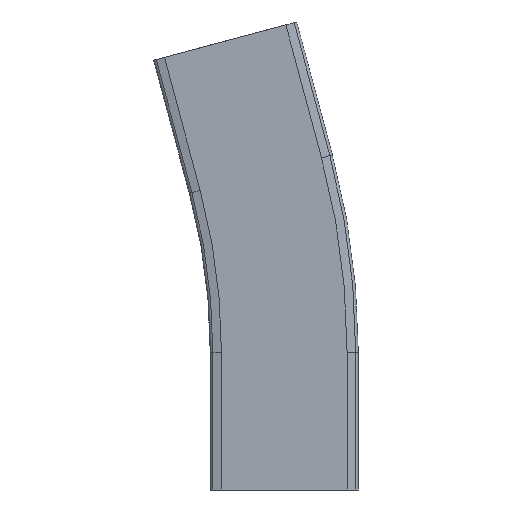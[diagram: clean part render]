
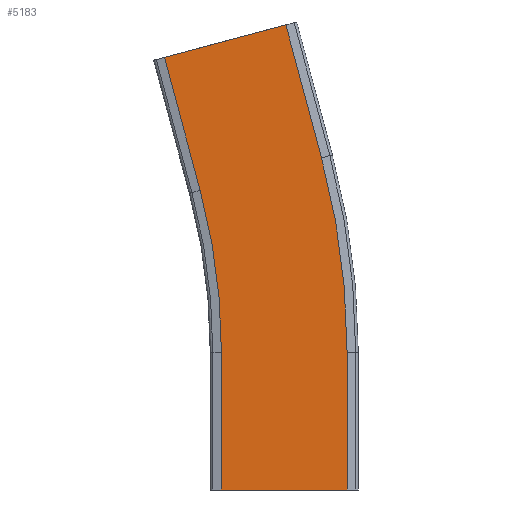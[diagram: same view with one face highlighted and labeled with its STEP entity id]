
A CAD part, front view. The second image highlights one B-rep face of the part: STEP entity #5183.
In plain terms, the highlighted planar face has unit normal (0, -1, 0).
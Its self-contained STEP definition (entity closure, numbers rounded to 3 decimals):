
#4773=CARTESIAN_POINT('',(36.5,-11.,0.0));
#4774=VERTEX_POINT('',#4773);
#4781=CARTESIAN_POINT('',(-36.5,-11.,0.0));
#4782=VERTEX_POINT('',#4781);
#4783=CARTESIAN_POINT('',(-36.5,-11.,0.0));
#4784=DIRECTION('',(1.0,0.0,0.0));
#4785=VECTOR('',#4784,73.);
#4786=LINE('',#4783,#4785);
#4787=EDGE_CURVE('',#4782,#4774,#4786,.T.);
#4813=CARTESIAN_POINT('',(-36.5,-11.,80.0));
#4814=VERTEX_POINT('',#4813);
#4828=CARTESIAN_POINT('',(-36.5,-11.,0.0));
#4829=DIRECTION('',(0.0,0.0,1.0));
#4830=VECTOR('',#4829,80.0);
#4831=LINE('',#4828,#4830);
#4832=EDGE_CURVE('',#4782,#4814,#4831,.T.);
#4842=CARTESIAN_POINT('',(36.5,-11.,80.0));
#4843=VERTEX_POINT('',#4842);
#4852=CARTESIAN_POINT('',(36.5,-11.,0.0));
#4853=DIRECTION('',(0.0,0.0,1.0));
#4854=VECTOR('',#4853,80.0);
#4855=LINE('',#4852,#4854);
#4856=EDGE_CURVE('',#4774,#4843,#4855,.T.);
#4969=CARTESIAN_POINT('',(21.627,-11.,192.975));
#4970=VERTEX_POINT('',#4969);
#4977=CARTESIAN_POINT('',(-400.0,-11.,80.0));
#4978=DIRECTION('',(0.0,-1.0,0.0));
#4979=DIRECTION('',(1.0,0.0,0.0));
#4980=AXIS2_PLACEMENT_3D('',#4977,#4978,#4979);
#4981=CIRCLE('',#4980,436.5);
#4982=EDGE_CURVE('',#4843,#4970,#4981,.T.);
#5036=CARTESIAN_POINT('',(-48.886,-11.,174.081));
#5037=VERTEX_POINT('',#5036);
#5052=CARTESIAN_POINT('',(-400.0,-11.,80.0));
#5053=DIRECTION('',(0.0,-1.0,0.0));
#5054=DIRECTION('',(1.0,0.0,0.0));
#5055=AXIS2_PLACEMENT_3D('',#5052,#5053,#5054);
#5056=CIRCLE('',#5055,363.5);
#5057=EDGE_CURVE('',#4814,#5037,#5056,.T.);
#5067=CARTESIAN_POINT('',(0.921,-11.,270.249));
#5068=VERTEX_POINT('',#5067);
#5075=CARTESIAN_POINT('',(21.627,-11.,192.975));
#5076=DIRECTION('',(-0.259,0.,0.966));
#5077=VECTOR('',#5076,80.);
#5078=LINE('',#5075,#5077);
#5079=EDGE_CURVE('',#4970,#5068,#5078,.T.);
#5144=CARTESIAN_POINT('',(-69.591,-11.,251.355));
#5145=VERTEX_POINT('',#5144);
#5154=CARTESIAN_POINT('',(-48.886,-11.,174.081));
#5155=DIRECTION('',(-0.259,0.,0.966));
#5156=VECTOR('',#5155,80.);
#5157=LINE('',#5154,#5156);
#5158=EDGE_CURVE('',#5037,#5145,#5157,.T.);
#5163=CARTESIAN_POINT('',(69.436,-11.,14.549));
#5164=DIRECTION('',(0.0,-1.0,0.0));
#5165=DIRECTION('',(0.259,0.0,-0.966));
#5166=AXIS2_PLACEMENT_3D('',#5163,#5164,#5165);
#5167=PLANE('',#5166);
#5168=CARTESIAN_POINT('',(0.921,-11.,270.249));
#5169=DIRECTION('',(-0.966,0.,-0.259));
#5170=VECTOR('',#5169,73.);
#5171=LINE('',#5168,#5170);
#5172=EDGE_CURVE('',#5068,#5145,#5171,.T.);
#5173=ORIENTED_EDGE('',*,*,#5172,.T.);
#5174=ORIENTED_EDGE('',*,*,#5158,.F.);
#5175=ORIENTED_EDGE('',*,*,#5057,.F.);
#5176=ORIENTED_EDGE('',*,*,#4832,.F.);
#5177=ORIENTED_EDGE('',*,*,#4787,.T.);
#5178=ORIENTED_EDGE('',*,*,#4856,.T.);
#5179=ORIENTED_EDGE('',*,*,#4982,.T.);
#5180=ORIENTED_EDGE('',*,*,#5079,.T.);
#5181=EDGE_LOOP('',(#5173,#5174,#5175,#5176,#5177,#5178,#5179,#5180));
#5182=FACE_OUTER_BOUND('',#5181,.T.);
#5183=ADVANCED_FACE('',(#5182),#5167,.T.);
